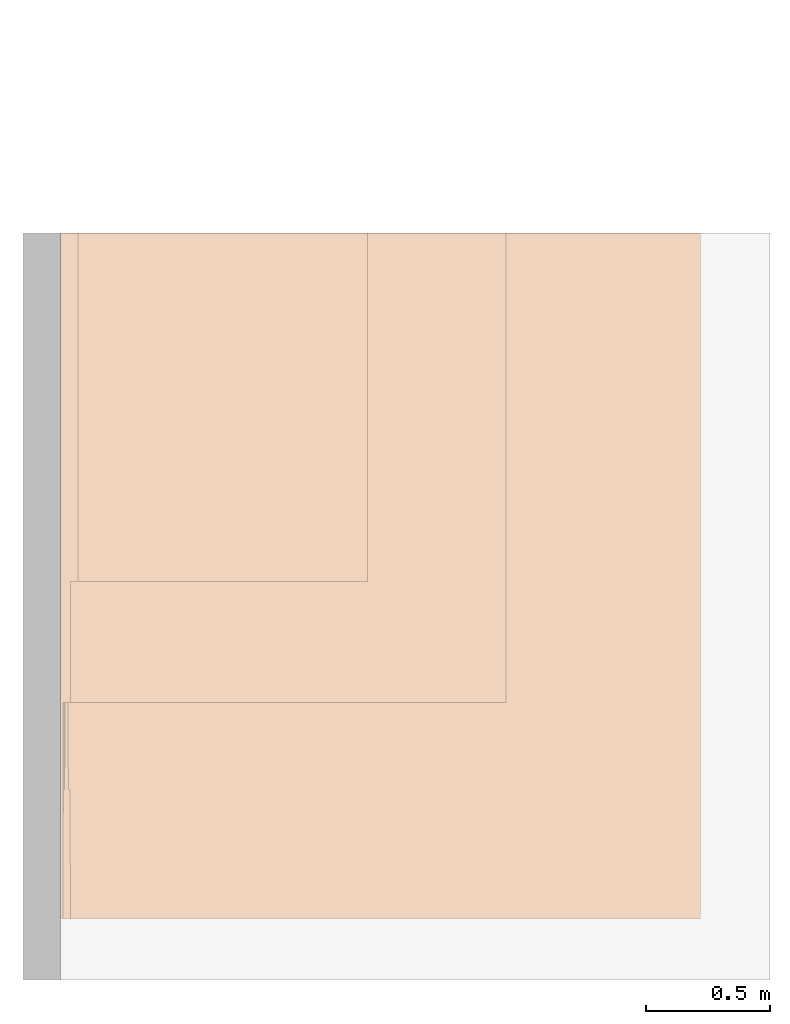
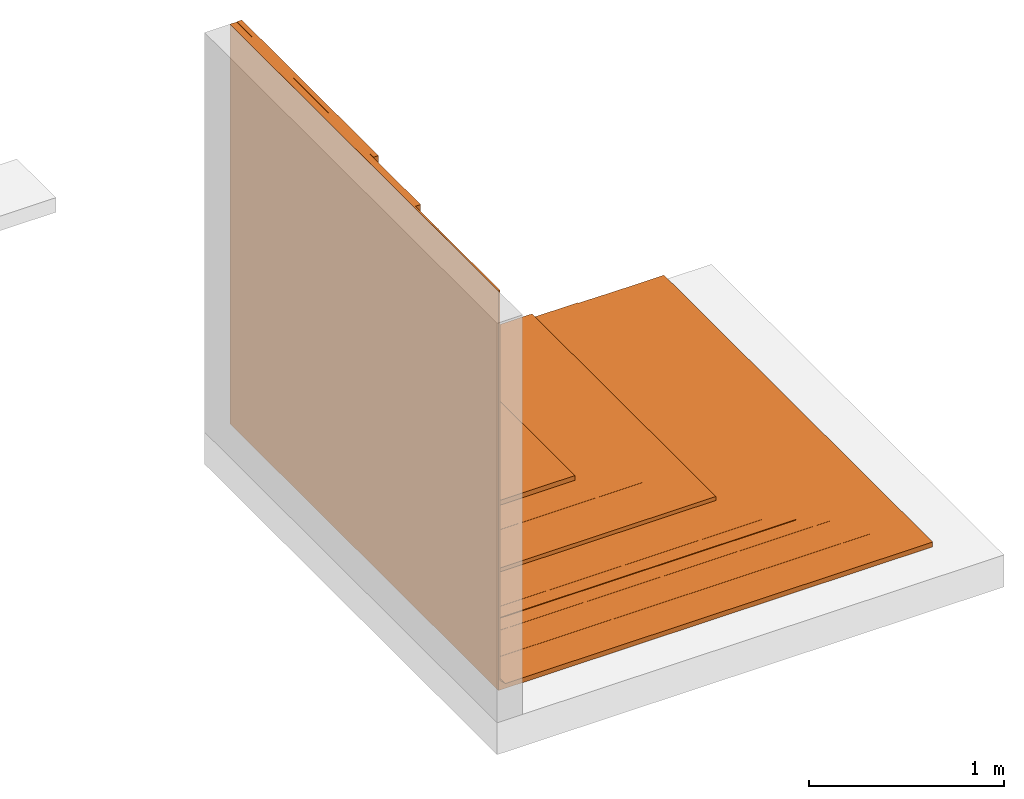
# One storey, part 2 of 2: 1 proxy.
"""IFC2X3 building model written with IfcOpenShell, lengths in metres."""

import ifcopenshell
import ifcopenshell.guid

model = None  # the IFC model being written
_history = None  # IfcOwnerHistory: only IFC2X3 demands one
_inside = {}  # id of a spatial element -> (the spatial element, [elements in it])
_under = {}  # id of a project, library or spatial element -> (it, [spatial elements below it])
_declared = {}  # id of a project -> (the project, [libraries it declares])
_typed = {}  # id of a type object -> (the type object, [elements of that type])
_made_of = {}  # id of a material, layer set ... -> (it, [elements and type objects made of it])


def new_model(schema):
    """Start an empty IFC model of exactly this schema.

    Asked for "IFC4X3", IfcOpenShell would pick the latest addendum, in which some entities
    have other attributes; the version numbers below select the first issue.
    IFC2X3 requires an IfcOwnerHistory on every rooted entity: one is made here for all.
    """
    global model, _history
    if schema == "IFC4X3":
        model = ifcopenshell.file(schema_version=(4, 3, 0, 0))
    else:
        model = ifcopenshell.file(schema=schema)
    _inside.clear()
    _under.clear()
    _declared.clear()
    _typed.clear()
    _made_of.clear()
    _history = None
    if model.schema == "IFC2X3":
        org = make("IfcOrganization", Name="unknown")
        user = make(
            "IfcPersonAndOrganization",
            ThePerson=make("IfcPerson", FamilyName="unknown"),
            TheOrganization=org,
        )
        app = make(
            "IfcApplication",
            ApplicationDeveloper=org,
            Version="unknown",
            ApplicationFullName="unknown",
            ApplicationIdentifier="unknown",
        )
        _history = make(
            "IfcOwnerHistory",
            OwningUser=user,
            OwningApplication=app,
            ChangeAction="ADDED",
            CreationDate=0,
        )
    return model


def make(cls, **values):
    """One entity of the class cls with the attributes given. An attribute that is None is left unset."""
    return model.create_entity(
        cls, **{name: value for name, value in values.items() if value is not None}
    )


def entity(cls, *values):
    """Any entity or typed value of the class cls, its attributes in the order of the schema. None: left unset."""
    e = model.create_entity(cls)
    for i, value in enumerate(values):
        if value is not None:
            e[i] = value
    return e


def rooted(cls, **values):
    """An entity with a GlobalId (a new one), such as an element, a storey or a relation."""
    return make(cls, GlobalId=ifcopenshell.guid.new(), OwnerHistory=_history, **values)


def si_unit(unit_type, name, prefix=None):
    """IfcSIUnit, for example si_unit("LENGTHUNIT", "METRE", prefix="MILLI")."""
    return make("IfcSIUnit", UnitType=unit_type, Prefix=prefix, Name=name)


def converted_unit(unit_type, name, factor, base, dimensions=None, offset=None):
    """IfcConversionBasedUnit, such as the inch: factor (a typed value) times the base unit."""
    return make(
        "IfcConversionBasedUnit"
        if offset is None
        else "IfcConversionBasedUnitWithOffset",
        ConversionOffset=offset,
        Dimensions=None
        if dimensions is None
        else entity("IfcDimensionalExponents", *dimensions),
        UnitType=unit_type,
        Name=name,
        ConversionFactor=make(
            "IfcMeasureWithUnit", ValueComponent=factor, UnitComponent=base
        ),
    )


def derived_unit(unit_type, elements):
    """IfcDerivedUnit: a product of units, each with its exponent."""
    return make(
        "IfcDerivedUnit",
        Elements=[
            make("IfcDerivedUnitElement", Unit=unit, Exponent=power)
            for unit, power in elements
        ],
        UnitType=unit_type,
    )


def assignment(units):
    """IfcUnitAssignment: the units of a project."""
    return None if units is None else make("IfcUnitAssignment", Units=units)


def point(xyz):
    """IfcCartesianPoint."""
    return None if xyz is None else make("IfcCartesianPoint", Coordinates=xyz)


def direction(xyz):
    """IfcDirection."""
    return None if xyz is None else make("IfcDirection", DirectionRatios=xyz)


def frame(location, z_axis=None, x_axis=None):
    """IfcAxis2Placement3D, a coordinate frame: its origin and axes. An axis left out is left unset."""
    return make(
        "IfcAxis2Placement3D",
        Location=point(location),
        Axis=direction(z_axis),
        RefDirection=direction(x_axis),
    )


def frame_2d(location, x_axis=None):
    """IfcAxis2Placement2D, a coordinate frame in the plane: its origin and x axis."""
    return make(
        "IfcAxis2Placement2D", Location=point(location), RefDirection=direction(x_axis)
    )


def origin():
    """The frame at (0, 0, 0) with its axes left unset."""
    return frame((0.0, 0.0, 0.0))


def origin_2d_with_axis():
    """The frame at (0, 0) in the plane with the x axis (1, 0) written out."""
    return frame_2d((0.0, 0.0), x_axis=(1.0, 0.0))


def place(relative_to, where):
    """IfcLocalPlacement: puts the frame where relative to a parent placement (None: the world)."""
    return make(
        "IfcLocalPlacement", PlacementRelTo=relative_to, RelativePlacement=where
    )


def context(
    kind, dimensions, precision=None, world=None, true_north=None, identifier=None
):
    """IfcGeometricRepresentationContext, for example the 3D "Model" context."""
    return make(
        "IfcGeometricRepresentationContext",
        ContextIdentifier=identifier,
        ContextType=kind,
        CoordinateSpaceDimension=dimensions,
        Precision=precision,
        WorldCoordinateSystem=world,
        TrueNorth=true_north,
    )


def subcontext(parent, identifier, kind, view, scale=None):
    """IfcGeometricRepresentationSubContext, for example "Body" below "Model"."""
    return make(
        "IfcGeometricRepresentationSubContext",
        ContextIdentifier=identifier,
        ContextType=kind,
        ParentContext=parent,
        TargetScale=scale,
        TargetView=view,
    )


def project(units=None, contexts=None):
    """IfcProject with its units and contexts."""
    return rooted(
        "IfcProject",
        Name="project",
        RepresentationContexts=contexts,
        UnitsInContext=assignment(units),
    )


def spatial(cls, under=None, at=None, **own):
    """A site, building, storey or space (cls), placed at a placement, below another one or the project."""
    s = rooted(cls, ObjectPlacement=at, **own)
    if under is not None:
        _under.setdefault(under.id(), (under, []))[1].append(s)
    return s


def polyline(points):
    """IfcPolyline through the points."""
    return make("IfcPolyline", Points=[point(p) for p in points])


def circle_curve(where, radius):
    """IfcCircle in the frame where."""
    return make("IfcCircle", Position=where, Radius=radius)


def parameter(value):
    """IfcParameterValue: where a trimmed curve begins or ends, as a parameter of its basis curve."""
    return model.create_entity("IfcParameterValue", value)


def trimmed(basis, trim1, trim2, sense, master):
    """IfcTrimmedCurve: the piece of a basis curve between two trims."""
    return make(
        "IfcTrimmedCurve",
        BasisCurve=basis,
        Trim1=trim1,
        Trim2=trim2,
        SenseAgreement=sense,
        MasterRepresentation=master,
    )


def segment(curve, same_sense, transition):
    """IfcCompositeCurveSegment."""
    return make(
        "IfcCompositeCurveSegment",
        Transition=transition,
        SameSense=same_sense,
        ParentCurve=curve,
    )


def composite_curve(segments, self_intersect=None):
    """IfcCompositeCurve: segments joined end to end."""
    return make("IfcCompositeCurve", Segments=segments, SelfIntersect=self_intersect)


def profile(cls, at=None, kind="AREA", **sizes):
    """A parametric profile (cls). Its sizes go by their IFC names, for example OverallWidth=200.0."""
    return make(cls, ProfileType=kind, Position=at, **sizes)


def rectangle(**sizes):
    """IfcRectangleProfileDef."""
    return profile("IfcRectangleProfileDef", **sizes)


def outline(outer, holes=None, kind="AREA"):
    """IfcArbitraryClosedProfileDef: a profile drawn as a closed curve; with holes, ...WithVoids."""
    if holes is None:
        return make("IfcArbitraryClosedProfileDef", ProfileType=kind, OuterCurve=outer)
    return make(
        "IfcArbitraryProfileDefWithVoids",
        ProfileType=kind,
        OuterCurve=outer,
        InnerCurves=holes,
    )


def extrude(swept, where, along, depth):
    """IfcExtrudedAreaSolid: the profile swept, set in the frame where, extruded along a direction by depth."""
    return make(
        "IfcExtrudedAreaSolid",
        SweptArea=swept,
        Position=where,
        ExtrudedDirection=direction(along),
        Depth=depth,
    )


def shape(context_of_items, identifier, shape_type, items):
    """IfcShapeRepresentation: the items that make up one representation, for example the "Body"."""
    return make(
        "IfcShapeRepresentation",
        ContextOfItems=context_of_items,
        RepresentationIdentifier=identifier,
        RepresentationType=shape_type,
        Items=items,
    )


def source(mapping_origin, context_of_items, identifier, shape_type, items):
    """IfcRepresentationMap: a shape defined once, which mapped items show again and again."""
    return make(
        "IfcRepresentationMap",
        MappingOrigin=mapping_origin,
        MappedRepresentation=shape(context_of_items, identifier, shape_type, items),
    )


def transform(
    local_origin,
    x_axis=None,
    y_axis=None,
    z_axis=None,
    scale=None,
    scale2=None,
    scale3=None,
    uniform=True,
):
    """IfcCartesianTransformationOperator3D, or its non-uniform kind. x_axis, y_axis, z_axis: its Axis1, 2, 3."""
    if uniform:
        return make(
            "IfcCartesianTransformationOperator3D",
            Axis1=direction(x_axis),
            Axis2=direction(y_axis),
            LocalOrigin=point(local_origin),
            Scale=scale,
            Axis3=direction(z_axis),
        )
    return make(
        "IfcCartesianTransformationOperator3DnonUniform",
        Axis1=direction(x_axis),
        Axis2=direction(y_axis),
        LocalOrigin=point(local_origin),
        Scale=scale,
        Axis3=direction(z_axis),
        Scale2=scale2,
        Scale3=scale3,
    )


def mapped(mapping_source, mapping_target):
    """IfcMappedItem: shows the shape of a source again, moved by a transform."""
    return make(
        "IfcMappedItem", MappingSource=mapping_source, MappingTarget=mapping_target
    )


def material(Name=None, Category=None):
    """IfcMaterial."""
    return make("IfcMaterial", Name=Name, Category=Category)


def material_list(materials):
    """IfcMaterialList."""
    return make("IfcMaterialList", Materials=materials)


def made_of(thing, what):
    """Note that an element or type object is made of a material, layer set ...; save() writes the relation."""
    if what is not None:
        _made_of.setdefault(what.id(), (what, []))[1].append(thing)
    return thing


def type_object(cls, material=None, **own):
    """A type object (cls), such as IfcWallType, which elements share."""
    return made_of(rooted(cls, **own), material)


def type_shapes(of_type, sources):
    """Give a type object the sources (RepresentationMaps) that its elements show as mapped items."""
    of_type.RepresentationMaps = sources


def element(
    cls,
    number,
    at=None,
    inside=None,
    cuts=None,
    type_object=None,
    material=None,
    context=None,
    identifier="Body",
    shape_type=None,
    held_by="IfcProductDefinitionShape",
    body=None,
    shapes=None,
    **own,
):
    """One element of the class cls, such as IfcWall. Its Tag is "e" and its number.

    at: its placement. inside: the storey or other place that contains it. cuts: it is an
    opening in that element (IfcRelVoidsElement). A single representation is given by context,
    identifier, shape_type and body (its items); several are given by shapes. held_by: the class
    of the entity that holds the representations. save() writes the other relations.
    """
    e = rooted(cls, Tag="e%d" % number, ObjectPlacement=at, **own)
    if body is not None:
        shapes = [shape(context, identifier, shape_type, body)]
    if shapes is not None:
        e.Representation = make(held_by, Representations=shapes)
    if inside is not None:
        _inside.setdefault(inside.id(), (inside, []))[1].append(e)
    if cuts is not None:
        rooted(
            "IfcRelVoidsElement", RelatingBuildingElement=cuts, RelatedOpeningElement=e
        )
    if type_object is not None:
        _typed.setdefault(type_object.id(), (type_object, []))[1].append(e)
    return made_of(e, material)


def aggregate(whole, parts):
    """IfcRelAggregates: a whole, such as a stair, and the parts it consists of."""
    return rooted("IfcRelAggregates", RelatingObject=whole, RelatedObjects=parts)


def save(model, path):
    """Write the relations noted so far, then the file.

    IfcRelAggregates (storeys below a building ...), IfcRelContainedInSpatialStructure (elements
    in a storey), IfcRelDefinesByType, IfcRelAssociatesMaterial and IfcRelDeclares: one each for
    every whole, place, type object, material and project.
    """
    for whole, parts in _under.values():
        aggregate(whole, parts)
    for where, things in _inside.values():
        rooted(
            "IfcRelContainedInSpatialStructure",
            RelatedElements=things,
            RelatingStructure=where,
        )
    for kind, things in _typed.values():
        rooted("IfcRelDefinesByType", RelatedObjects=things, RelatingType=kind)
    for what, things in _made_of.values():
        rooted("IfcRelAssociatesMaterial", RelatedObjects=things, RelatingMaterial=what)
    for by, libraries in _declared.values():
        rooted("IfcRelDeclares", RelatingContext=by, RelatedDefinitions=libraries)
    model.write(path)


model = new_model("IFC2X3")

# Units and contexts
model_context = context("Model", 3, precision=1e-05, world=origin(), true_north=direction((6.123031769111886e-17, 1.0)))
body_context = subcontext(model_context, "Body", "Model", "MODEL_VIEW")
ifc_project = project(units=[si_unit("LENGTHUNIT", "METRE"), si_unit("AREAUNIT", "SQUARE_METRE"), si_unit("VOLUMEUNIT", "CUBIC_METRE"), converted_unit("PLANEANGLEUNIT", "DEGREE", entity("IfcRatioMeasure", 0.017453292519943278), si_unit("PLANEANGLEUNIT", "RADIAN"), dimensions=[0, 0, 0, 0, 0, 0, 0]), si_unit("MASSUNIT", "GRAM", prefix="KILO"), derived_unit("MASSDENSITYUNIT", [(si_unit("MASSUNIT", "GRAM", prefix="KILO"), 1), (si_unit("LENGTHUNIT", "METRE"), -3)]), derived_unit("IONCONCENTRATIONUNIT", [(si_unit("MASSUNIT", "GRAM", prefix="KILO"), 1), (si_unit("LENGTHUNIT", "METRE"), -3)]), derived_unit("MOMENTOFINERTIAUNIT", [(si_unit("LENGTHUNIT", "METRE"), 4)]), si_unit("TIMEUNIT", "SECOND"), si_unit("FREQUENCYUNIT", "HERTZ"), si_unit("THERMODYNAMICTEMPERATUREUNIT", "DEGREE_CELSIUS"), derived_unit("THERMALTRANSMITTANCEUNIT", [(si_unit("MASSUNIT", "GRAM", prefix="KILO"), 1), (si_unit("THERMODYNAMICTEMPERATUREUNIT", "KELVIN"), -1), (si_unit("TIMEUNIT", "SECOND"), -3)]), derived_unit("THERMALCONDUCTANCEUNIT", [(si_unit("MASSUNIT", "GRAM", prefix="KILO"), 1), (si_unit("THERMODYNAMICTEMPERATUREUNIT", "KELVIN"), -1), (si_unit("TIMEUNIT", "SECOND"), -3), (si_unit("LENGTHUNIT", "METRE"), 1)]), derived_unit("VOLUMETRICFLOWRATEUNIT", [(si_unit("LENGTHUNIT", "METRE"), 3), (si_unit("TIMEUNIT", "SECOND"), -1)]), derived_unit("MASSFLOWRATEUNIT", [(si_unit("MASSUNIT", "GRAM", prefix="KILO"), 1), (si_unit("TIMEUNIT", "SECOND"), -1)]), derived_unit("ROTATIONALFREQUENCYUNIT", [(si_unit("TIMEUNIT", "SECOND"), -1)]), si_unit("ELECTRICCURRENTUNIT", "AMPERE"), si_unit("ELECTRICVOLTAGEUNIT", "VOLT"), si_unit("POWERUNIT", "WATT"), si_unit("FORCEUNIT", "NEWTON", prefix="KILO"), si_unit("ILLUMINANCEUNIT", "LUX"), si_unit("LUMINOUSFLUXUNIT", "LUMEN"), si_unit("LUMINOUSINTENSITYUNIT", "CANDELA"), derived_unit("USERDEFINED", [(si_unit("MASSUNIT", "GRAM", prefix="KILO"), -1), (si_unit("LENGTHUNIT", "METRE"), -2), (si_unit("TIMEUNIT", "SECOND"), 3), (si_unit("LUMINOUSFLUXUNIT", "LUMEN"), 1)]), derived_unit("USERDEFINED", [(si_unit("MASSUNIT", "GRAM", prefix="KILO"), 1), (si_unit("TIMEUNIT", "SECOND"), -3), (si_unit("LENGTHUNIT", "METRE"), 3), (si_unit("ELECTRICCURRENTUNIT", "AMPERE"), -2)]), derived_unit("SOUNDPOWERUNIT", [(si_unit("MASSUNIT", "GRAM", prefix="KILO"), 1), (si_unit("TIMEUNIT", "SECOND"), -3), (si_unit("LENGTHUNIT", "METRE"), 2)]), derived_unit("SOUNDPRESSUREUNIT", [(si_unit("MASSUNIT", "GRAM", prefix="KILO"), 1), (si_unit("LENGTHUNIT", "METRE"), -1), (si_unit("TIMEUNIT", "SECOND"), -2)]), derived_unit("LINEARVELOCITYUNIT", [(si_unit("LENGTHUNIT", "METRE"), 1), (si_unit("TIMEUNIT", "SECOND"), -1)]), si_unit("PRESSUREUNIT", "PASCAL"), derived_unit("USERDEFINED", [(si_unit("MASSUNIT", "GRAM", prefix="KILO"), 1), (si_unit("LENGTHUNIT", "METRE"), -2), (si_unit("TIMEUNIT", "SECOND"), -2)]), derived_unit("LINEARFORCEUNIT", [(si_unit("MASSUNIT", "GRAM", prefix="KILO"), 1), (si_unit("TIMEUNIT", "SECOND"), -2)]), derived_unit("PLANARFORCEUNIT", [(si_unit("MASSUNIT", "GRAM", prefix="KILO"), 1), (si_unit("LENGTHUNIT", "METRE"), -1), (si_unit("TIMEUNIT", "SECOND"), -2)]), derived_unit("SPECIFICHEATCAPACITYUNIT", [(si_unit("THERMODYNAMICTEMPERATUREUNIT", "KELVIN"), -1), (si_unit("LENGTHUNIT", "METRE"), 2), (si_unit("TIMEUNIT", "SECOND"), -2)]), derived_unit("HEATINGVALUEUNIT", [(si_unit("LENGTHUNIT", "METRE"), 2), (si_unit("TIMEUNIT", "SECOND"), -2)]), derived_unit("VAPORPERMEABILITYUNIT", [(si_unit("LENGTHUNIT", "METRE"), -1), (si_unit("TIMEUNIT", "SECOND"), 1)]), derived_unit("DYNAMICVISCOSITYUNIT", [(si_unit("MASSUNIT", "GRAM", prefix="KILO"), 1), (si_unit("TIMEUNIT", "SECOND"), -1), (si_unit("LENGTHUNIT", "METRE"), -1)]), derived_unit("THERMALEXPANSIONCOEFFICIENTUNIT", [(si_unit("THERMODYNAMICTEMPERATUREUNIT", "KELVIN"), -1)]), derived_unit("MODULUSOFELASTICITYUNIT", [(si_unit("MASSUNIT", "GRAM", prefix="KILO"), 1), (si_unit("LENGTHUNIT", "METRE"), -1), (si_unit("TIMEUNIT", "SECOND"), -2)]), derived_unit("ISOTHERMALMOISTURECAPACITYUNIT", [(si_unit("LENGTHUNIT", "METRE"), 3), (si_unit("MASSUNIT", "GRAM", prefix="KILO"), -1)]), derived_unit("MOISTUREDIFFUSIVITYUNIT", [(si_unit("TIMEUNIT", "SECOND"), -1), (si_unit("LENGTHUNIT", "METRE"), 2)])], contexts=[model_context])

# Site, building, storey
site_placement = place(None, origin())
site = spatial("IfcSite", under=ifc_project, at=site_placement, Name="Default", CompositionType="ELEMENT")
building_placement = place(site_placement, origin())
building = spatial("IfcBuilding", under=site, at=building_placement, CompositionType="ELEMENT")
storey_placement = place(building_placement, frame((0.0, 0.0, -0.0025237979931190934)))
storey = spatial("IfcBuildingStorey", under=building, at=storey_placement, Name="ARQ Térreo", CompositionType="ELEMENT", Elevation=-0.0025237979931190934)

# Proxy
ifc_material_1 = material(Name="#nbr")
ifc_material_2 = material(Name="#XPS")
ifc_material_3 = material(Name="#Vitkote Elastic")
ifc_material_4 = material(Name="#argamassa")
ifc_material_5 = material(Name="#Primer Adeflex")
ifc_material_6 = material(Name="# Torodin 3mm - TIPO III - Classe A")
ifc_material_7 = material(Name="#proteção mecânica")
ifc_material_8 = material(Name="#Tela Plástica")
ifc_material_9 = material(Name="#camada separadora")
ifc_material_10 = material(Name="#selante")
ifc_material_list = material_list([ifc_material_1, ifc_material_2, ifc_material_3, ifc_material_4, ifc_material_5, ifc_material_6, ifc_material_7, ifc_material_8, ifc_material_9, ifc_material_10])
building_element_proxy_type = type_object("IfcBuildingElementProxyType", Name="IMPER:IMPER", PredefinedType="NOTDEFINED", material=ifc_material_list)
shared_shape = source(origin(), body_context, "Body", "SweptSolid", [
    extrude(outline(composite_curve([segment(polyline([(-0.01507373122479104, -0.4784082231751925), (0.09068865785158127, -0.4784082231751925)]), True, "CONTINUOUS"), segment(polyline([(0.09068865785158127, -0.4784082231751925), (0.09068865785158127, -0.4774082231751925)]), True, "CONTINUOUS"), segment(polyline([(0.09068865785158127, -0.4774082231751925), (-0.01505821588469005, -0.4774082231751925)]), True, "CONTINUOUS"), segment(trimmed(circle_curve(frame_2d((-0.014337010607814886, -0.4544195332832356), x_axis=(0.0, 1.0)), 0.02299999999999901), [parameter(92.70716054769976)], [parameter(178.2030959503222)], True, "PARAMETER"), False, "CONTINUOUS"), segment(polyline([(-0.03731134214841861, -0.4555058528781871), (-0.037311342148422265, 1.4113339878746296)]), True, "CONTINUOUS"), segment(polyline([(-0.037311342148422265, 1.4113339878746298), (-0.03831134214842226, 1.4113339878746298)]), True, "CONTINUOUS"), segment(polyline([(-0.03831134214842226, 1.4113339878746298), (-0.038311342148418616, -0.45552923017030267)]), True, "CONTINUOUS"), segment(trimmed(circle_curve(frame_2d((-0.014337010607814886, -0.4544195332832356), x_axis=(0.0, 1.0)), 0.02399999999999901), [parameter(92.65015103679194)], [parameter(178.2409327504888)], True, "PARAMETER"), True, "CONTINUOUS")], self_intersect=False)), frame((0.14244912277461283, -2.0049615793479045, 0.07181321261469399), z_axis=(0.0, 1.0, 0.0), x_axis=(0.0, 0.0, 1.0)), (0.0, 0.0, 1.0), 2.1508315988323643),
    extrude(outline(composite_curve([segment(polyline([(-0.013628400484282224, -0.5571210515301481), (0.09620711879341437, -0.5571210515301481)]), True, "CONTINUOUS"), segment(polyline([(0.09620711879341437, -0.5571210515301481), (0.09620711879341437, -0.5561210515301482)]), True, "CONTINUOUS"), segment(polyline([(0.09620711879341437, -0.5561210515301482), (-0.01361431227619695, -0.5561210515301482)]), True, "CONTINUOUS"), segment(trimmed(circle_curve(frame_2d((-0.012818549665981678, -0.5281323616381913), x_axis=(0.0, 1.0)), 0.027999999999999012), [parameter(92.45353184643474)], [parameter(178.3714293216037)], True, "PARAMETER"), False, "CONTINUOUS"), segment(polyline([(-0.0407928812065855, -0.5293310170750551), (-0.04079288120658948, 1.642583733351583)]), True, "CONTINUOUS"), segment(polyline([(-0.04079288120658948, 1.6425837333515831), (-0.04179288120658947, 1.6425837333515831)]), True, "CONTINUOUS"), segment(polyline([(-0.04179288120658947, 1.6425837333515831), (-0.04179288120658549, -0.5293522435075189)]), True, "CONTINUOUS"), segment(trimmed(circle_curve(frame_2d((-0.012818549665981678, -0.5281323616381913), x_axis=(0.0, 1.0)), 0.028999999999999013), [parameter(92.41085211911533)], [parameter(178.39975630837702)], True, "PARAMETER"), True, "CONTINUOUS")], self_intersect=False)), frame((0.21616195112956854, -2.1838835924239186, 0.07029475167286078), z_axis=(0.0, 1.0, 0.0), x_axis=(0.0, 0.0, 1.0)), (0.0, 0.0, 1.0), 2.3297536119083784),
    extrude(outline(composite_curve([segment(polyline([(-0.2758242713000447, 0.43752881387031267), (1.471767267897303, 0.4375288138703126)]), True, "CONTINUOUS"), segment(polyline([(1.471767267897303, 0.4375288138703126), (1.471767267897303, 0.4619375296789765)]), True, "CONTINUOUS"), segment(polyline([(1.471767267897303, 0.4619375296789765), (-0.27792190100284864, 0.4619375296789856)]), True, "CONTINUOUS"), segment(trimmed(circle_curve(frame_2d((-0.2768355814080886, 0.4389631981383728), x_axis=(1.0, 0.0)), 0.02299999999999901), [parameter(92.70716054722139)], [parameter(178.20309595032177)], True, "PARAMETER"), True, "CONTINUOUS"), segment(polyline([(-0.2998242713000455, 0.439684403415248), (-0.2988242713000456, 0.439684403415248)]), True, "CONTINUOUS"), segment(polyline([(-0.2988242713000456, 0.439684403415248), (-0.29882427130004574, 0.33293752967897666)]), True, "CONTINUOUS"), segment(polyline([(-0.29882427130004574, 0.33293752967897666), (-0.3004100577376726, 0.33293752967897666)]), True, "CONTINUOUS"), segment(polyline([(-0.30041005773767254, 0.33293752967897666), (-0.3044100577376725, 0.32893752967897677)]), True, "CONTINUOUS"), segment(polyline([(-0.3044100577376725, 0.32893752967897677), (-0.3058355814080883, 0.3289375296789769)]), True, "CONTINUOUS"), segment(polyline([(-0.3058355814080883, 0.3289375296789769), (-0.30583558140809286, -2.0010258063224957)]), True, "CONTINUOUS"), segment(polyline([(-0.30583558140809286, -2.0010258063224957), (-0.27582427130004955, -2.0010258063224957)]), True, "CONTINUOUS"), segment(polyline([(-0.27582427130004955, -2.0010258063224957), (-0.27582427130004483, 0.43752881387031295)]), True, "CONTINUOUS")], self_intersect=False)), frame((-0.035134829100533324, -1.7392820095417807, 0.49643940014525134), z_axis=(0.0, 1.0, 0.0), x_axis=(1.0, 0.0, 0.0)), (0.0, 0.0, 1.0), 1.8851520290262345),
    extrude(outline(polyline([(0.0020652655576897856, -0.3692045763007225), (0.0040765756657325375, -0.3692045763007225), (0.0040765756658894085, 1.9617697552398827), (0.0030765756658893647, 1.9617697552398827), (0.003076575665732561, -0.3682045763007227), (0.0016510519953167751, -0.36820457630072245), (-0.0023489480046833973, -0.37220457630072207), (-0.0039347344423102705, -0.37220457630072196), (-0.003934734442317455, -0.4789514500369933), (-0.0029347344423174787, -0.47895145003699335), (-0.0029347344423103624, -0.37320457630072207), (-0.0019347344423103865, -0.3732045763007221), (0.0020652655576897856, -0.3692045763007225)])), frame((-0.33789383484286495, -1.9751610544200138, 0.5357064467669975), z_axis=(0.0, 1.0, 0.0), x_axis=(-1.0, 0.0, 0.0)), (0.0, 0.0, 1.0), 2.121031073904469),
    extrude(rectangle(XDim=2.7543580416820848, YDim=0.009999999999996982, at=frame_2d((0.0, 3.382710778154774e-17), x_axis=(1.0, 0.0))), frame((-0.3469704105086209, -1.2313090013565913, -0.0025237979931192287), z_axis=(0.0, 0.0, 1.0), x_axis=(0.0, -1.0, 0.0)), (0.0, 0.0, 1.0), 2.4999999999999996),
    extrude(outline(composite_curve([segment(polyline([(-1.0, -0.006000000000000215), (1.5300000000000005, -0.006000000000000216)]), True, "CONTINUOUS"), segment(polyline([(1.5300000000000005, -0.006000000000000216), (1.5300000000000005, 0.023999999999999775)]), True, "CONTINUOUS"), segment(polyline([(1.5300000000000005, 0.023999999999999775), (-1.0300000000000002, 0.023999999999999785)]), True, "CONTINUOUS"), segment(polyline([(-1.0300000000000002, 0.023999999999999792), (-1.0300000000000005, -0.03599999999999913)]), True, "CONTINUOUS"), segment(trimmed(circle_curve(frame_2d((-1.0, -0.03599999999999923), x_axis=(1.0, 0.0)), 0.029999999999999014), [parameter(90.0000000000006)], [parameter(179.99999999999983)], True, "PARAMETER"), False, "CONTINUOUS")], self_intersect=False)), frame((0.688029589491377, -2.6084880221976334, 0.021476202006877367), z_axis=(0.0, 1.0, 0.0), x_axis=(1.0, 0.0, 0.0)), (0.0, 0.0, 1.0), 2.7543580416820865),
    extrude(outline(composite_curve([segment(polyline([(-0.5865890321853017, -0.013221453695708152), (-0.5865890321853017, 0.09661406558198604)]), True, "CONTINUOUS"), segment(polyline([(-0.5865890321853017, 0.09661406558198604), (-0.5876003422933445, 0.09661406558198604)]), True, "CONTINUOUS"), segment(polyline([(-0.5876003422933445, 0.09661406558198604), (-0.5876003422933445, -0.012411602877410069)]), True, "CONTINUOUS"), segment(trimmed(circle_curve(frame_2d((-0.5576003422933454, -0.012411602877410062), x_axis=(1.0, 0.0)), 0.029999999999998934), [parameter(179.99999999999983)], [parameter(270.00000000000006)], True, "PARAMETER"), True, "CONTINUOUS"), segment(polyline([(-0.5576003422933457, -0.04241160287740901), (1.732399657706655, -0.042411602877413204)]), True, "CONTINUOUS"), segment(polyline([(1.732399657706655, -0.042411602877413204), (1.732399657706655, -0.04138593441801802)]), True, "CONTINUOUS"), segment(polyline([(1.732399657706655, -0.04138593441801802), (-0.5588202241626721, -0.04138593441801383)]), True, "CONTINUOUS"), segment(trimmed(circle_curve(frame_2d((-0.5576003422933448, -0.012411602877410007), x_axis=(1.0, 0.0)), 0.028999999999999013), [parameter(181.60024369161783)], [parameter(267.5891478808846)], True, "PARAMETER"), False, "CONTINUOUS")], self_intersect=False)), frame((0.245629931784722, -2.3859840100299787, 0.06988780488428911), z_axis=(0.0, -1.0, 0.0), x_axis=(1.0, 0.0, 0.0)), (0.0, 0.0, -1.0), 2.5318540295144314),
    extrude(outline(composite_curve([segment(polyline([(-0.5159107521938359, -0.014314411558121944), (-0.5159107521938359, 0.09144797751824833)]), True, "CONTINUOUS"), segment(polyline([(-0.5159107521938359, 0.09144797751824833), (-0.5199107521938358, 0.09544797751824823)]), True, "CONTINUOUS"), segment(polyline([(-0.5199107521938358, 0.09544797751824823), (-0.5199107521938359, -0.014373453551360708)]), True, "CONTINUOUS"), segment(trimmed(circle_curve(frame_2d((-0.4919220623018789, -0.013577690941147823), x_axis=(1.0, 0.0)), 0.027999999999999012), [parameter(181.62857067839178)], [parameter(267.54646815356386)], True, "PARAMETER"), True, "CONTINUOUS"), segment(polyline([(-0.4931207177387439, -0.041552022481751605), (1.528897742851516, -0.04155202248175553)]), True, "CONTINUOUS"), segment(polyline([(1.528897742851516, -0.04155202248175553), (1.528897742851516, -0.037552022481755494)]), True, "CONTINUOUS"), segment(polyline([(1.528897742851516, -0.037552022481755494), (-0.4930317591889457, -0.03755202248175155)]), True, "CONTINUOUS"), segment(trimmed(circle_curve(frame_2d((-0.4919220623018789, -0.013577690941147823), x_axis=(1.0, 0.0)), 0.02399999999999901), [parameter(181.75906724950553)], [parameter(267.34984896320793)], True, "PARAMETER"), False, "CONTINUOUS")], self_intersect=False)), frame((0.17995165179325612, -2.091049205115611, 0.07105389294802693), z_axis=(0.0, -1.0, 0.0), x_axis=(1.0, 0.0, 0.0)), (0.0, 0.0, -1.0), 2.2369192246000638),
    extrude(outline(polyline([(-0.5558609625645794, -0.2858827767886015), (1.8831133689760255, -0.2858827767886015), (1.8831133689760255, -0.25588277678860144), (-0.5258609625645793, -0.25588277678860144), (-0.5384609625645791, -0.2558827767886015), (-0.5384609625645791, -0.23735681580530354), (-0.5258609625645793, -0.23735681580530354), (-0.5258609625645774, 0.9070637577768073), (-0.5558609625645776, 0.9070637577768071), (-0.5558609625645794, -0.2858827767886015)])), frame((-0.025076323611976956, -1.2541299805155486, 0.6157715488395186), z_axis=(0.0, 1.0, 0.0), x_axis=(0.0, 0.0, 1.0)), (0.0, 0.0, 1.0), 1.3999999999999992),
    extrude(rectangle(XDim=1.8399790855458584, YDim=0.0009999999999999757, at=frame_2d((0.0, -3.382710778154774e-17), x_axis=(1.0, 0.0))), frame((-0.29595910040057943, -0.7741195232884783, 0.08991058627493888), z_axis=(0.0, 0.0, 1.0), x_axis=(0.0, -1.0, 0.0)), (0.0, 0.0, 1.0), 0.4),
    extrude(rectangle(XDim=1.4812644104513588, YDim=1.589332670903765, at=origin_2d_with_axis()), frame((0.4296731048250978, -0.6487963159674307, 0.05891058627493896), z_axis=(0.0, 0.0, 1.0), x_axis=(-1.0, 0.0, 0.0)), (0.0, 0.0, 1.0), 0.0009999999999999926),
    extrude(rectangle(XDim=0.01852596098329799, YDim=1.4000000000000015, at=origin_2d_with_axis()), frame((-0.2716961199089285, -0.5541299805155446, 0.07731058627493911), z_axis=(0.0, 0.0, 1.0), x_axis=(-1.0, 0.0, 0.0)), (0.0, 0.0, 1.0), 0.012599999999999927),
])
type_shapes(building_element_proxy_type, [shared_shape])
proxy_placement = place(storey_placement, frame((0.0, 0.0, 0.0025237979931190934)))
element("IfcBuildingElementProxy", 1, at=proxy_placement, inside=storey, type_object=building_element_proxy_type, material=ifc_material_list, Name="IMPER:IMPER:IMPER : IMPER:IMPER", ObjectType="IMPER:IMPER:IMPER : IMPER:IMPER", context=body_context, shape_type="MappedRepresentation", body=[
    mapped(shared_shape, transform((0.0, 0.0, 0.0), scale=1.0)),
])

save(model, "model.ifc")
